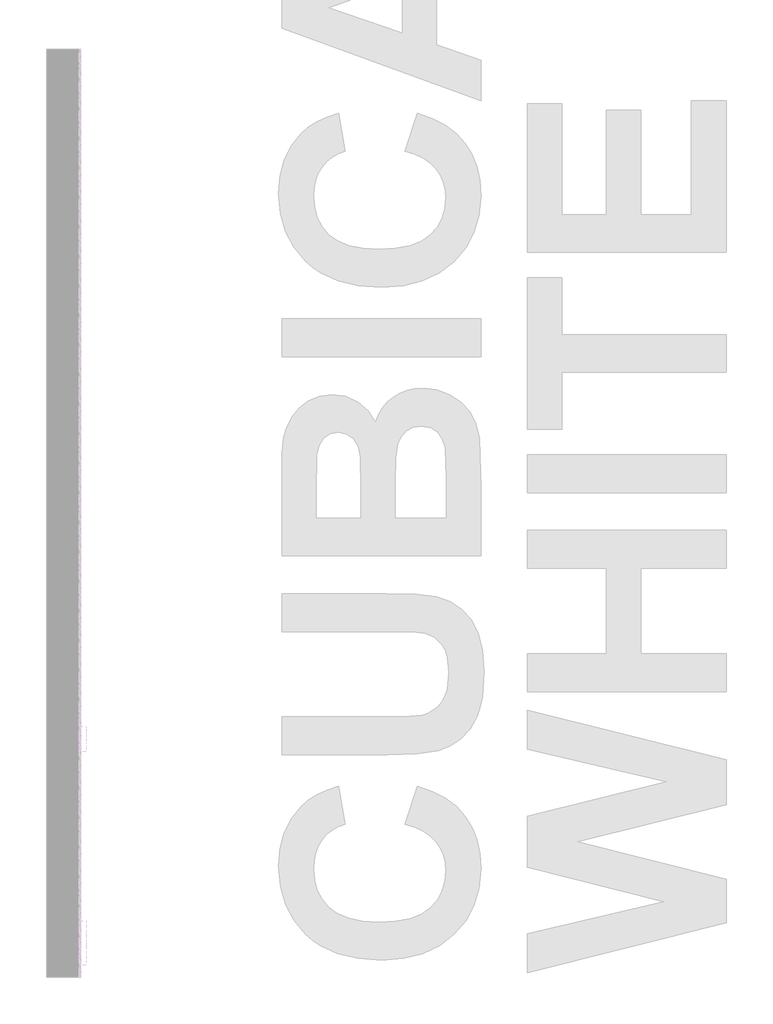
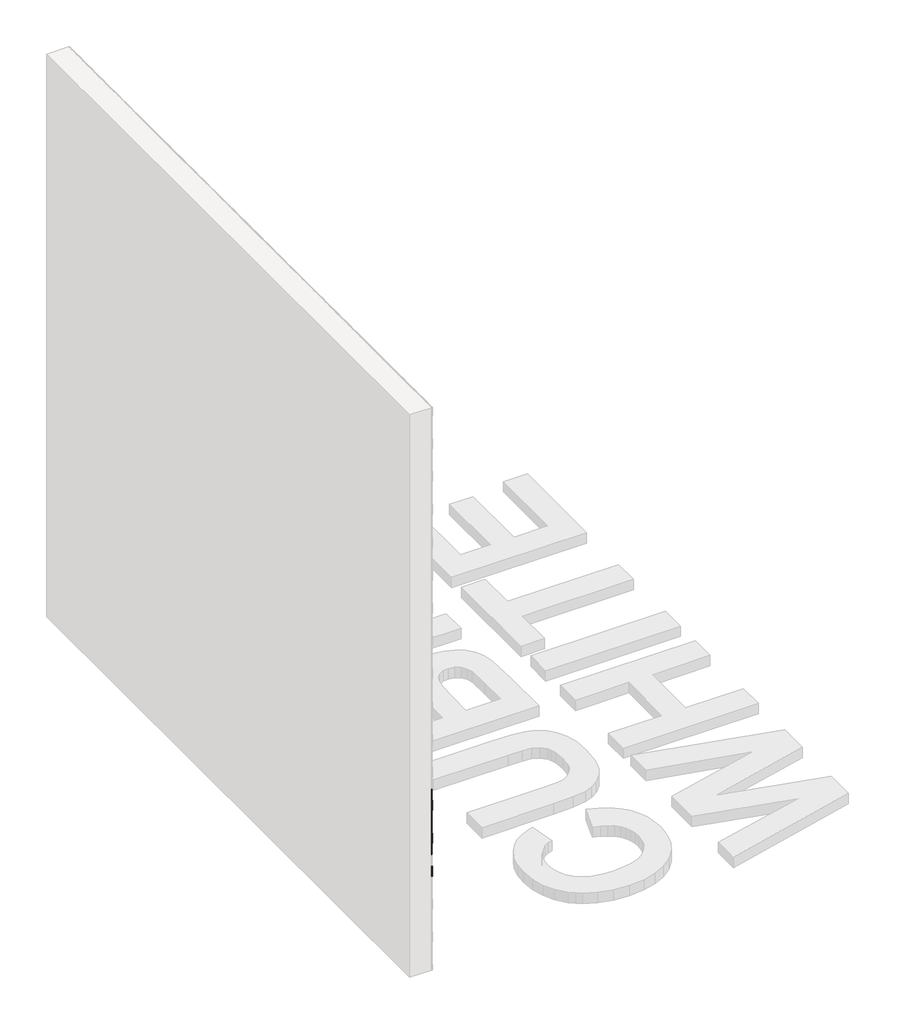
# One storey, part 99 of 121: 145 proxies.
"""IFC4 building model written with IfcOpenShell, lengths in millimetres."""

from ifc_helpers import new_model, si_unit, origin, place, context, project, spatial, transform, mapped, element, save
from components import generic_models_b2b2c5c1, generic_models_9bf73f6f, generic_models_5d175859, generic_models_45888c4d

model = new_model("IFC4")

# Units and contexts
model_context = context("Model", 3, world=origin())
ifc_project = project(units=[si_unit("LENGTHUNIT", "METRE", prefix="MILLI")], contexts=[model_context])

# Site, building, storey
site = spatial("IfcSite", under=ifc_project)
building = spatial("IfcBuilding", under=site)
storey = spatial("IfcBuildingStorey", under=building, Name="PORTOBELLO - SHOWROOM", Elevation=0.0)

# Proxies
placement = place(None, origin())
generic_models_shape = generic_models_b2b2c5c1(model_context)
element("IfcBuildingElementProxy", 1, Name="PBSHOP - CUBICA WHITE 4,8X8,3 : CUBICA WHITE - POSIÇÃO 01", ObjectType="PBSHOP - CUBICA WHITE 4,8X8,3 : CUBICA WHITE - POSIÇÃO 01", at=placement, inside=storey, context=model_context, shape_type="MappedRepresentation", body=[
    mapped(generic_models_shape, transform((150369.5341846, 19287.3870148, 513.0299971), x_axis=(0.0, 1.0, 0.0), y_axis=(0.0, 0.0, 1.0), z_axis=(1.0, 0.0, 0.0))),
])
element("IfcBuildingElementProxy", 2, Name="PBSHOP - CUBICA WHITE 4,8X8,3 : CUBICA WHITE - POSIÇÃO 01", ObjectType="PBSHOP - CUBICA WHITE 4,8X8,3 : CUBICA WHITE - POSIÇÃO 01", at=placement, inside=storey, context=model_context, shape_type="MappedRepresentation", body=[
    mapped(generic_models_shape, transform((150369.5341846, 19378.2262841, 513.0299971), x_axis=(0.0, 1.0, 0.0), y_axis=(0.0, 0.0, 1.0), z_axis=(1.0, 0.0, 0.0))),
])
element("IfcBuildingElementProxy", 3, Name="PBSHOP - CUBICA WHITE 4,8X8,3 : CUBICA WHITE - POSIÇÃO 01", ObjectType="PBSHOP - CUBICA WHITE 4,8X8,3 : CUBICA WHITE - POSIÇÃO 01", at=placement, inside=storey, context=model_context, shape_type="MappedRepresentation", body=[
    mapped(generic_models_shape, transform((150369.5341846, 19469.0655533, 513.0299971), x_axis=(0.0, 1.0, 0.0), y_axis=(0.0, 0.0, 1.0), z_axis=(1.0, 0.0, 0.0))),
])
element("IfcBuildingElementProxy", 4, Name="PBSHOP - CUBICA WHITE 4,8X8,3 : CUBICA WHITE - POSIÇÃO 01", ObjectType="PBSHOP - CUBICA WHITE 4,8X8,3 : CUBICA WHITE - POSIÇÃO 01", at=placement, inside=storey, context=model_context, shape_type="MappedRepresentation", body=[
    mapped(generic_models_shape, transform((150369.5341846, 19559.9048225, 513.0299971), x_axis=(0.0, 1.0, 0.0), y_axis=(0.0, 0.0, 1.0), z_axis=(1.0, 0.0, 0.0))),
])
element("IfcBuildingElementProxy", 5, Name="PBSHOP - CUBICA WHITE 4,8X8,3 : CUBICA WHITE - POSIÇÃO 01", ObjectType="PBSHOP - CUBICA WHITE 4,8X8,3 : CUBICA WHITE - POSIÇÃO 01", at=placement, inside=storey, context=model_context, shape_type="MappedRepresentation", body=[
    mapped(generic_models_shape, transform((150369.5341846, 19650.7440918, 513.0299971), x_axis=(0.0, 1.0, 0.0), y_axis=(0.0, 0.0, 1.0), z_axis=(1.0, 0.0, 0.0))),
])
element("IfcBuildingElementProxy", 6, Name="PBSHOP - CUBICA WHITE 4,8X8,3 : CUBICA WHITE - POSIÇÃO 01", ObjectType="PBSHOP - CUBICA WHITE 4,8X8,3 : CUBICA WHITE - POSIÇÃO 01", at=placement, inside=storey, context=model_context, shape_type="MappedRepresentation", body=[
    mapped(generic_models_shape, transform((150369.5341846, 19741.583361, 513.0299971), x_axis=(0.0, 1.0, 0.0), y_axis=(0.0, 0.0, 1.0), z_axis=(1.0, 0.0, 0.0))),
])
element("IfcBuildingElementProxy", 7, Name="PBSHOP - CUBICA WHITE 4,8X8,3 : CUBICA WHITE - POSIÇÃO 01", ObjectType="PBSHOP - CUBICA WHITE 4,8X8,3 : CUBICA WHITE - POSIÇÃO 01", at=placement, inside=storey, context=model_context, shape_type="MappedRepresentation", body=[
    mapped(generic_models_shape, transform((150369.5341846, 19832.4226303, 513.0299971), x_axis=(0.0, 1.0, 0.0), y_axis=(0.0, 0.0, 1.0), z_axis=(1.0, 0.0, 0.0))),
])
element("IfcBuildingElementProxy", 8, Name="PBSHOP - CUBICA WHITE 4,8X8,3 : CUBICA WHITE - POSIÇÃO 01", ObjectType="PBSHOP - CUBICA WHITE 4,8X8,3 : CUBICA WHITE - POSIÇÃO 01", at=placement, inside=storey, context=model_context, shape_type="MappedRepresentation", body=[
    mapped(generic_models_shape, transform((150369.5341846, 19923.2618995, 513.0299971), x_axis=(0.0, 1.0, 0.0), y_axis=(0.0, 0.0, 1.0), z_axis=(1.0, 0.0, 0.0))),
])
element("IfcBuildingElementProxy", 9, Name="PBSHOP - CUBICA WHITE 4,8X8,3 : CUBICA WHITE - POSIÇÃO 01", ObjectType="PBSHOP - CUBICA WHITE 4,8X8,3 : CUBICA WHITE - POSIÇÃO 01", at=placement, inside=storey, context=model_context, shape_type="MappedRepresentation", body=[
    mapped(generic_models_shape, transform((150369.5341846, 19241.9673802, 591.9646354), x_axis=(0.0, 1.0, 0.0), y_axis=(0.0, 0.0, 1.0), z_axis=(1.0, 0.0, 0.0))),
])
element("IfcBuildingElementProxy", 10, Name="PBSHOP - CUBICA WHITE 4,8X8,3 : CUBICA WHITE - POSIÇÃO 01", ObjectType="PBSHOP - CUBICA WHITE 4,8X8,3 : CUBICA WHITE - POSIÇÃO 01", at=placement, inside=storey, context=model_context, shape_type="MappedRepresentation", body=[
    mapped(generic_models_shape, transform((150369.5341846, 19332.8066494, 591.9646354), x_axis=(0.0, 1.0, 0.0), y_axis=(0.0, 0.0, 1.0), z_axis=(1.0, 0.0, 0.0))),
])
element("IfcBuildingElementProxy", 11, Name="PBSHOP - CUBICA WHITE 4,8X8,3 : CUBICA WHITE - POSIÇÃO 01", ObjectType="PBSHOP - CUBICA WHITE 4,8X8,3 : CUBICA WHITE - POSIÇÃO 01", at=placement, inside=storey, context=model_context, shape_type="MappedRepresentation", body=[
    mapped(generic_models_shape, transform((150369.5341846, 19423.6459187, 591.9646354), x_axis=(0.0, 1.0, 0.0), y_axis=(0.0, 0.0, 1.0), z_axis=(1.0, 0.0, 0.0))),
])
element("IfcBuildingElementProxy", 12, Name="PBSHOP - CUBICA WHITE 4,8X8,3 : CUBICA WHITE - POSIÇÃO 01", ObjectType="PBSHOP - CUBICA WHITE 4,8X8,3 : CUBICA WHITE - POSIÇÃO 01", at=placement, inside=storey, context=model_context, shape_type="MappedRepresentation", body=[
    mapped(generic_models_shape, transform((150369.5341846, 19514.4851879, 591.9646354), x_axis=(0.0, 1.0, 0.0), y_axis=(0.0, 0.0, 1.0), z_axis=(1.0, 0.0, 0.0))),
])
element("IfcBuildingElementProxy", 13, Name="PBSHOP - CUBICA WHITE 4,8X8,3 : CUBICA WHITE - POSIÇÃO 01", ObjectType="PBSHOP - CUBICA WHITE 4,8X8,3 : CUBICA WHITE - POSIÇÃO 01", at=placement, inside=storey, context=model_context, shape_type="MappedRepresentation", body=[
    mapped(generic_models_shape, transform((150369.5341846, 19605.3244572, 591.9646354), x_axis=(0.0, 1.0, 0.0), y_axis=(0.0, 0.0, 1.0), z_axis=(1.0, 0.0, 0.0))),
])
element("IfcBuildingElementProxy", 14, Name="PBSHOP - CUBICA WHITE 4,8X8,3 : CUBICA WHITE - POSIÇÃO 01", ObjectType="PBSHOP - CUBICA WHITE 4,8X8,3 : CUBICA WHITE - POSIÇÃO 01", at=placement, inside=storey, context=model_context, shape_type="MappedRepresentation", body=[
    mapped(generic_models_shape, transform((150369.5341846, 19696.1637264, 591.9646354), x_axis=(0.0, 1.0, 0.0), y_axis=(0.0, 0.0, 1.0), z_axis=(1.0, 0.0, 0.0))),
])
element("IfcBuildingElementProxy", 15, Name="PBSHOP - CUBICA WHITE 4,8X8,3 : CUBICA WHITE - POSIÇÃO 01", ObjectType="PBSHOP - CUBICA WHITE 4,8X8,3 : CUBICA WHITE - POSIÇÃO 01", at=placement, inside=storey, context=model_context, shape_type="MappedRepresentation", body=[
    mapped(generic_models_shape, transform((150369.5341846, 19787.0029957, 591.9646354), x_axis=(0.0, 1.0, 0.0), y_axis=(0.0, 0.0, 1.0), z_axis=(1.0, 0.0, 0.0))),
])
element("IfcBuildingElementProxy", 16, Name="PBSHOP - CUBICA WHITE 4,8X8,3 : CUBICA WHITE - POSIÇÃO 01", ObjectType="PBSHOP - CUBICA WHITE 4,8X8,3 : CUBICA WHITE - POSIÇÃO 01", at=placement, inside=storey, context=model_context, shape_type="MappedRepresentation", body=[
    mapped(generic_models_shape, transform((150369.5341846, 19877.8422649, 591.9646354), x_axis=(0.0, 1.0, 0.0), y_axis=(0.0, 0.0, 1.0), z_axis=(1.0, 0.0, 0.0))),
])
element("IfcBuildingElementProxy", 17, Name="PBSHOP - CUBICA WHITE 4,8X8,3 : CUBICA WHITE - POSIÇÃO 01", ObjectType="PBSHOP - CUBICA WHITE 4,8X8,3 : CUBICA WHITE - POSIÇÃO 01", at=placement, inside=storey, context=model_context, shape_type="MappedRepresentation", body=[
    mapped(generic_models_shape, transform((150369.5341846, 19968.6815341, 591.9646354), x_axis=(0.0, 1.0, 0.0), y_axis=(0.0, 0.0, 1.0), z_axis=(1.0, 0.0, 0.0))),
])
element("IfcBuildingElementProxy", 18, Name="PBSHOP - CUBICA WHITE 4,8X8,3 : CUBICA WHITE - POSIÇÃO 01", ObjectType="PBSHOP - CUBICA WHITE 4,8X8,3 : CUBICA WHITE - POSIÇÃO 01", at=placement, inside=storey, context=model_context, shape_type="MappedRepresentation", body=[
    mapped(generic_models_shape, transform((150369.5341846, 19196.5477456, 670.8992738), x_axis=(0.0, 1.0, 0.0), y_axis=(0.0, 0.0, 1.0), z_axis=(1.0, 0.0, 0.0))),
])
element("IfcBuildingElementProxy", 19, Name="PBSHOP - CUBICA WHITE 4,8X8,3 : CUBICA WHITE - POSIÇÃO 01", ObjectType="PBSHOP - CUBICA WHITE 4,8X8,3 : CUBICA WHITE - POSIÇÃO 01", at=placement, inside=storey, context=model_context, shape_type="MappedRepresentation", body=[
    mapped(generic_models_shape, transform((150369.5341846, 19287.3870148, 670.8992738), x_axis=(0.0, 1.0, 0.0), y_axis=(0.0, 0.0, 1.0), z_axis=(1.0, 0.0, 0.0))),
])
element("IfcBuildingElementProxy", 20, Name="PBSHOP - CUBICA WHITE 4,8X8,3 : CUBICA WHITE - POSIÇÃO 01", ObjectType="PBSHOP - CUBICA WHITE 4,8X8,3 : CUBICA WHITE - POSIÇÃO 01", at=placement, inside=storey, context=model_context, shape_type="MappedRepresentation", body=[
    mapped(generic_models_shape, transform((150369.5341846, 19378.2262841, 670.8992738), x_axis=(0.0, 1.0, 0.0), y_axis=(0.0, 0.0, 1.0), z_axis=(1.0, 0.0, 0.0))),
])
element("IfcBuildingElementProxy", 21, Name="PBSHOP - CUBICA WHITE 4,8X8,3 : CUBICA WHITE - POSIÇÃO 01", ObjectType="PBSHOP - CUBICA WHITE 4,8X8,3 : CUBICA WHITE - POSIÇÃO 01", at=placement, inside=storey, context=model_context, shape_type="MappedRepresentation", body=[
    mapped(generic_models_shape, transform((150369.5341846, 19469.0655533, 670.8992738), x_axis=(0.0, 1.0, 0.0), y_axis=(0.0, 0.0, 1.0), z_axis=(1.0, 0.0, 0.0))),
])
element("IfcBuildingElementProxy", 22, Name="PBSHOP - CUBICA WHITE 4,8X8,3 : CUBICA WHITE - POSIÇÃO 01", ObjectType="PBSHOP - CUBICA WHITE 4,8X8,3 : CUBICA WHITE - POSIÇÃO 01", at=placement, inside=storey, context=model_context, shape_type="MappedRepresentation", body=[
    mapped(generic_models_shape, transform((150369.5341846, 19559.9048225, 670.8992738), x_axis=(0.0, 1.0, 0.0), y_axis=(0.0, 0.0, 1.0), z_axis=(1.0, 0.0, 0.0))),
])
element("IfcBuildingElementProxy", 23, Name="PBSHOP - CUBICA WHITE 4,8X8,3 : CUBICA WHITE - POSIÇÃO 01", ObjectType="PBSHOP - CUBICA WHITE 4,8X8,3 : CUBICA WHITE - POSIÇÃO 01", at=placement, inside=storey, context=model_context, shape_type="MappedRepresentation", body=[
    mapped(generic_models_shape, transform((150369.5341846, 19650.7440918, 670.8992738), x_axis=(0.0, 1.0, 0.0), y_axis=(0.0, 0.0, 1.0), z_axis=(1.0, 0.0, 0.0))),
])
element("IfcBuildingElementProxy", 24, Name="PBSHOP - CUBICA WHITE 4,8X8,3 : CUBICA WHITE - POSIÇÃO 01", ObjectType="PBSHOP - CUBICA WHITE 4,8X8,3 : CUBICA WHITE - POSIÇÃO 01", at=placement, inside=storey, context=model_context, shape_type="MappedRepresentation", body=[
    mapped(generic_models_shape, transform((150369.5341846, 19741.583361, 670.8992738), x_axis=(0.0, 1.0, 0.0), y_axis=(0.0, 0.0, 1.0), z_axis=(1.0, 0.0, 0.0))),
])
element("IfcBuildingElementProxy", 25, Name="PBSHOP - CUBICA WHITE 4,8X8,3 : CUBICA WHITE - POSIÇÃO 01", ObjectType="PBSHOP - CUBICA WHITE 4,8X8,3 : CUBICA WHITE - POSIÇÃO 01", at=placement, inside=storey, context=model_context, shape_type="MappedRepresentation", body=[
    mapped(generic_models_shape, transform((150369.5341846, 19832.4226303, 670.8992738), x_axis=(0.0, 1.0, 0.0), y_axis=(0.0, 0.0, 1.0), z_axis=(1.0, 0.0, 0.0))),
])
element("IfcBuildingElementProxy", 26, Name="PBSHOP - CUBICA WHITE 4,8X8,3 : CUBICA WHITE - POSIÇÃO 01", ObjectType="PBSHOP - CUBICA WHITE 4,8X8,3 : CUBICA WHITE - POSIÇÃO 01", at=placement, inside=storey, context=model_context, shape_type="MappedRepresentation", body=[
    mapped(generic_models_shape, transform((150369.5341846, 19923.2618995, 670.8992738), x_axis=(0.0, 1.0, 0.0), y_axis=(0.0, 0.0, 1.0), z_axis=(1.0, 0.0, 0.0))),
])
element("IfcBuildingElementProxy", 27, Name="PBSHOP - CUBICA WHITE 4,8X8,3 : CUBICA WHITE - POSIÇÃO 01", ObjectType="PBSHOP - CUBICA WHITE 4,8X8,3 : CUBICA WHITE - POSIÇÃO 01", at=placement, inside=storey, context=model_context, shape_type="MappedRepresentation", body=[
    mapped(generic_models_shape, transform((150369.5341846, 19241.9673802, 749.8339122), x_axis=(0.0, 1.0, 0.0), y_axis=(0.0, 0.0, 1.0), z_axis=(1.0, 0.0, 0.0))),
])
element("IfcBuildingElementProxy", 28, Name="PBSHOP - CUBICA WHITE 4,8X8,3 : CUBICA WHITE - POSIÇÃO 01", ObjectType="PBSHOP - CUBICA WHITE 4,8X8,3 : CUBICA WHITE - POSIÇÃO 01", at=placement, inside=storey, context=model_context, shape_type="MappedRepresentation", body=[
    mapped(generic_models_shape, transform((150369.5341846, 19332.8066494, 749.8339122), x_axis=(0.0, 1.0, 0.0), y_axis=(0.0, 0.0, 1.0), z_axis=(1.0, 0.0, 0.0))),
])
element("IfcBuildingElementProxy", 29, Name="PBSHOP - CUBICA WHITE 4,8X8,3 : CUBICA WHITE - POSIÇÃO 01", ObjectType="PBSHOP - CUBICA WHITE 4,8X8,3 : CUBICA WHITE - POSIÇÃO 01", at=placement, inside=storey, context=model_context, shape_type="MappedRepresentation", body=[
    mapped(generic_models_shape, transform((150369.5341846, 19423.6459187, 749.8339122), x_axis=(0.0, 1.0, 0.0), y_axis=(0.0, 0.0, 1.0), z_axis=(1.0, 0.0, 0.0))),
])
element("IfcBuildingElementProxy", 30, Name="PBSHOP - CUBICA WHITE 4,8X8,3 : CUBICA WHITE - POSIÇÃO 01", ObjectType="PBSHOP - CUBICA WHITE 4,8X8,3 : CUBICA WHITE - POSIÇÃO 01", at=placement, inside=storey, context=model_context, shape_type="MappedRepresentation", body=[
    mapped(generic_models_shape, transform((150369.5341846, 19514.4851879, 749.8339122), x_axis=(0.0, 1.0, 0.0), y_axis=(0.0, 0.0, 1.0), z_axis=(1.0, 0.0, 0.0))),
])
element("IfcBuildingElementProxy", 31, Name="PBSHOP - CUBICA WHITE 4,8X8,3 : CUBICA WHITE - POSIÇÃO 01", ObjectType="PBSHOP - CUBICA WHITE 4,8X8,3 : CUBICA WHITE - POSIÇÃO 01", at=placement, inside=storey, context=model_context, shape_type="MappedRepresentation", body=[
    mapped(generic_models_shape, transform((150369.5341846, 19605.3244572, 749.8339122), x_axis=(0.0, 1.0, 0.0), y_axis=(0.0, 0.0, 1.0), z_axis=(1.0, 0.0, 0.0))),
])
element("IfcBuildingElementProxy", 32, Name="PBSHOP - CUBICA WHITE 4,8X8,3 : CUBICA WHITE - POSIÇÃO 01", ObjectType="PBSHOP - CUBICA WHITE 4,8X8,3 : CUBICA WHITE - POSIÇÃO 01", at=placement, inside=storey, context=model_context, shape_type="MappedRepresentation", body=[
    mapped(generic_models_shape, transform((150369.5341846, 19696.1637264, 749.8339122), x_axis=(0.0, 1.0, 0.0), y_axis=(0.0, 0.0, 1.0), z_axis=(1.0, 0.0, 0.0))),
])
element("IfcBuildingElementProxy", 33, Name="PBSHOP - CUBICA WHITE 4,8X8,3 : CUBICA WHITE - POSIÇÃO 01", ObjectType="PBSHOP - CUBICA WHITE 4,8X8,3 : CUBICA WHITE - POSIÇÃO 01", at=placement, inside=storey, context=model_context, shape_type="MappedRepresentation", body=[
    mapped(generic_models_shape, transform((150369.5341846, 19787.0029957, 749.8339122), x_axis=(0.0, 1.0, 0.0), y_axis=(0.0, 0.0, 1.0), z_axis=(1.0, 0.0, 0.0))),
])
element("IfcBuildingElementProxy", 34, Name="PBSHOP - CUBICA WHITE 4,8X8,3 : CUBICA WHITE - POSIÇÃO 01", ObjectType="PBSHOP - CUBICA WHITE 4,8X8,3 : CUBICA WHITE - POSIÇÃO 01", at=placement, inside=storey, context=model_context, shape_type="MappedRepresentation", body=[
    mapped(generic_models_shape, transform((150369.5341846, 19877.8422649, 749.8339122), x_axis=(0.0, 1.0, 0.0), y_axis=(0.0, 0.0, 1.0), z_axis=(1.0, 0.0, 0.0))),
])
element("IfcBuildingElementProxy", 35, Name="PBSHOP - CUBICA WHITE 4,8X8,3 : CUBICA WHITE - POSIÇÃO 01", ObjectType="PBSHOP - CUBICA WHITE 4,8X8,3 : CUBICA WHITE - POSIÇÃO 01", at=placement, inside=storey, context=model_context, shape_type="MappedRepresentation", body=[
    mapped(generic_models_shape, transform((150369.5341846, 19968.6815341, 749.8339122), x_axis=(0.0, 1.0, 0.0), y_axis=(0.0, 0.0, 1.0), z_axis=(1.0, 0.0, 0.0))),
])
element("IfcBuildingElementProxy", 36, Name="PBSHOP - CUBICA WHITE 4,8X8,3 : CUBICA WHITE - POSIÇÃO 01", ObjectType="PBSHOP - CUBICA WHITE 4,8X8,3 : CUBICA WHITE - POSIÇÃO 01", at=placement, inside=storey, context=model_context, shape_type="MappedRepresentation", body=[
    mapped(generic_models_shape, transform((150369.5341846, 19196.5477456, 828.7685506), x_axis=(0.0, 1.0, 0.0), y_axis=(0.0, 0.0, 1.0), z_axis=(1.0, 0.0, 0.0))),
])
element("IfcBuildingElementProxy", 37, Name="PBSHOP - CUBICA WHITE 4,8X8,3 : CUBICA WHITE - POSIÇÃO 01", ObjectType="PBSHOP - CUBICA WHITE 4,8X8,3 : CUBICA WHITE - POSIÇÃO 01", at=placement, inside=storey, context=model_context, shape_type="MappedRepresentation", body=[
    mapped(generic_models_shape, transform((150369.5341846, 19287.3870148, 828.7685506), x_axis=(0.0, 1.0, 0.0), y_axis=(0.0, 0.0, 1.0), z_axis=(1.0, 0.0, 0.0))),
])
element("IfcBuildingElementProxy", 38, Name="PBSHOP - CUBICA WHITE 4,8X8,3 : CUBICA WHITE - POSIÇÃO 01", ObjectType="PBSHOP - CUBICA WHITE 4,8X8,3 : CUBICA WHITE - POSIÇÃO 01", at=placement, inside=storey, context=model_context, shape_type="MappedRepresentation", body=[
    mapped(generic_models_shape, transform((150369.5341846, 19378.2262841, 828.7685506), x_axis=(0.0, 1.0, 0.0), y_axis=(0.0, 0.0, 1.0), z_axis=(1.0, 0.0, 0.0))),
])
element("IfcBuildingElementProxy", 39, Name="PBSHOP - CUBICA WHITE 4,8X8,3 : CUBICA WHITE - POSIÇÃO 01", ObjectType="PBSHOP - CUBICA WHITE 4,8X8,3 : CUBICA WHITE - POSIÇÃO 01", at=placement, inside=storey, context=model_context, shape_type="MappedRepresentation", body=[
    mapped(generic_models_shape, transform((150369.5341846, 19469.0655533, 828.7685506), x_axis=(0.0, 1.0, 0.0), y_axis=(0.0, 0.0, 1.0), z_axis=(1.0, 0.0, 0.0))),
])
element("IfcBuildingElementProxy", 40, Name="PBSHOP - CUBICA WHITE 4,8X8,3 : CUBICA WHITE - POSIÇÃO 01", ObjectType="PBSHOP - CUBICA WHITE 4,8X8,3 : CUBICA WHITE - POSIÇÃO 01", at=placement, inside=storey, context=model_context, shape_type="MappedRepresentation", body=[
    mapped(generic_models_shape, transform((150369.5341846, 19559.9048225, 828.7685506), x_axis=(0.0, 1.0, 0.0), y_axis=(0.0, 0.0, 1.0), z_axis=(1.0, 0.0, 0.0))),
])
element("IfcBuildingElementProxy", 41, Name="PBSHOP - CUBICA WHITE 4,8X8,3 : CUBICA WHITE - POSIÇÃO 01", ObjectType="PBSHOP - CUBICA WHITE 4,8X8,3 : CUBICA WHITE - POSIÇÃO 01", at=placement, inside=storey, context=model_context, shape_type="MappedRepresentation", body=[
    mapped(generic_models_shape, transform((150369.5341846, 19650.7440918, 828.7685506), x_axis=(0.0, 1.0, 0.0), y_axis=(0.0, 0.0, 1.0), z_axis=(1.0, 0.0, 0.0))),
])
element("IfcBuildingElementProxy", 42, Name="PBSHOP - CUBICA WHITE 4,8X8,3 : CUBICA WHITE - POSIÇÃO 01", ObjectType="PBSHOP - CUBICA WHITE 4,8X8,3 : CUBICA WHITE - POSIÇÃO 01", at=placement, inside=storey, context=model_context, shape_type="MappedRepresentation", body=[
    mapped(generic_models_shape, transform((150369.5341846, 19741.583361, 828.7685506), x_axis=(0.0, 1.0, 0.0), y_axis=(0.0, 0.0, 1.0), z_axis=(1.0, 0.0, 0.0))),
])
element("IfcBuildingElementProxy", 43, Name="PBSHOP - CUBICA WHITE 4,8X8,3 : CUBICA WHITE - POSIÇÃO 01", ObjectType="PBSHOP - CUBICA WHITE 4,8X8,3 : CUBICA WHITE - POSIÇÃO 01", at=placement, inside=storey, context=model_context, shape_type="MappedRepresentation", body=[
    mapped(generic_models_shape, transform((150369.5341846, 19832.4226303, 828.7685506), x_axis=(0.0, 1.0, 0.0), y_axis=(0.0, 0.0, 1.0), z_axis=(1.0, 0.0, 0.0))),
])
element("IfcBuildingElementProxy", 44, Name="PBSHOP - CUBICA WHITE 4,8X8,3 : CUBICA WHITE - POSIÇÃO 01", ObjectType="PBSHOP - CUBICA WHITE 4,8X8,3 : CUBICA WHITE - POSIÇÃO 01", at=placement, inside=storey, context=model_context, shape_type="MappedRepresentation", body=[
    mapped(generic_models_shape, transform((150369.5341846, 19923.2618995, 828.7685506), x_axis=(0.0, 1.0, 0.0), y_axis=(0.0, 0.0, 1.0), z_axis=(1.0, 0.0, 0.0))),
])
element("IfcBuildingElementProxy", 45, Name="PBSHOP - CUBICA WHITE 4,8X8,3 : CUBICA WHITE - POSIÇÃO 01", ObjectType="PBSHOP - CUBICA WHITE 4,8X8,3 : CUBICA WHITE - POSIÇÃO 01", at=placement, inside=storey, context=model_context, shape_type="MappedRepresentation", body=[
    mapped(generic_models_shape, transform((150369.5341846, 19241.9673802, 907.7031889), x_axis=(0.0, 1.0, 0.0), y_axis=(0.0, 0.0, 1.0), z_axis=(1.0, 0.0, 0.0))),
])
element("IfcBuildingElementProxy", 46, Name="PBSHOP - CUBICA WHITE 4,8X8,3 : CUBICA WHITE - POSIÇÃO 01", ObjectType="PBSHOP - CUBICA WHITE 4,8X8,3 : CUBICA WHITE - POSIÇÃO 01", at=placement, inside=storey, context=model_context, shape_type="MappedRepresentation", body=[
    mapped(generic_models_shape, transform((150369.5341846, 19332.8066494, 907.7031889), x_axis=(0.0, 1.0, 0.0), y_axis=(0.0, 0.0, 1.0), z_axis=(1.0, 0.0, 0.0))),
])
element("IfcBuildingElementProxy", 47, Name="PBSHOP - CUBICA WHITE 4,8X8,3 : CUBICA WHITE - POSIÇÃO 01", ObjectType="PBSHOP - CUBICA WHITE 4,8X8,3 : CUBICA WHITE - POSIÇÃO 01", at=placement, inside=storey, context=model_context, shape_type="MappedRepresentation", body=[
    mapped(generic_models_shape, transform((150369.5341846, 19423.6459187, 907.7031889), x_axis=(0.0, 1.0, 0.0), y_axis=(0.0, 0.0, 1.0), z_axis=(1.0, 0.0, 0.0))),
])
element("IfcBuildingElementProxy", 48, Name="PBSHOP - CUBICA WHITE 4,8X8,3 : CUBICA WHITE - POSIÇÃO 01", ObjectType="PBSHOP - CUBICA WHITE 4,8X8,3 : CUBICA WHITE - POSIÇÃO 01", at=placement, inside=storey, context=model_context, shape_type="MappedRepresentation", body=[
    mapped(generic_models_shape, transform((150369.5341846, 19514.4851879, 907.7031889), x_axis=(0.0, 1.0, 0.0), y_axis=(0.0, 0.0, 1.0), z_axis=(1.0, 0.0, 0.0))),
])
element("IfcBuildingElementProxy", 49, Name="PBSHOP - CUBICA WHITE 4,8X8,3 : CUBICA WHITE - POSIÇÃO 01", ObjectType="PBSHOP - CUBICA WHITE 4,8X8,3 : CUBICA WHITE - POSIÇÃO 01", at=placement, inside=storey, context=model_context, shape_type="MappedRepresentation", body=[
    mapped(generic_models_shape, transform((150369.5341846, 19605.3244572, 907.7031889), x_axis=(0.0, 1.0, 0.0), y_axis=(0.0, 0.0, 1.0), z_axis=(1.0, 0.0, 0.0))),
])
generic_models_2_shape = generic_models_9bf73f6f(model_context)
element("IfcBuildingElementProxy", 50, Name="PBSHOP - CUBICA WHITE 4,8X8,3 : CUBICA WHITE - POSIÇÃO 03", ObjectType="PBSHOP - CUBICA WHITE 4,8X8,3 : CUBICA WHITE - POSIÇÃO 03", at=placement, inside=storey, context=model_context, shape_type="MappedRepresentation", body=[
    mapped(generic_models_2_shape, transform((150369.5341846, 19264.6793567, 473.5214674), x_axis=(0.0, 1.0, 0.0), y_axis=(0.0, 0.0, 1.0), z_axis=(1.0, 0.0, 0.0))),
])
element("IfcBuildingElementProxy", 51, Name="PBSHOP - CUBICA WHITE 4,8X8,3 : CUBICA WHITE - POSIÇÃO 03", ObjectType="PBSHOP - CUBICA WHITE 4,8X8,3 : CUBICA WHITE - POSIÇÃO 03", at=placement, inside=storey, context=model_context, shape_type="MappedRepresentation", body=[
    mapped(generic_models_2_shape, transform((150369.5341846, 19355.5186259, 473.5214674), x_axis=(0.0, 1.0, 0.0), y_axis=(0.0, 0.0, 1.0), z_axis=(1.0, 0.0, 0.0))),
])
element("IfcBuildingElementProxy", 52, Name="PBSHOP - CUBICA WHITE 4,8X8,3 : CUBICA WHITE - POSIÇÃO 03", ObjectType="PBSHOP - CUBICA WHITE 4,8X8,3 : CUBICA WHITE - POSIÇÃO 03", at=placement, inside=storey, context=model_context, shape_type="MappedRepresentation", body=[
    mapped(generic_models_2_shape, transform((150369.5341846, 19446.3578952, 473.5214674), x_axis=(0.0, 1.0, 0.0), y_axis=(0.0, 0.0, 1.0), z_axis=(1.0, 0.0, 0.0))),
])
element("IfcBuildingElementProxy", 53, Name="PBSHOP - CUBICA WHITE 4,8X8,3 : CUBICA WHITE - POSIÇÃO 03", ObjectType="PBSHOP - CUBICA WHITE 4,8X8,3 : CUBICA WHITE - POSIÇÃO 03", at=placement, inside=storey, context=model_context, shape_type="MappedRepresentation", body=[
    mapped(generic_models_2_shape, transform((150369.5341846, 19537.1971644, 473.5214674), x_axis=(0.0, 1.0, 0.0), y_axis=(0.0, 0.0, 1.0), z_axis=(1.0, 0.0, 0.0))),
])
element("IfcBuildingElementProxy", 54, Name="PBSHOP - CUBICA WHITE 4,8X8,3 : CUBICA WHITE - POSIÇÃO 03", ObjectType="PBSHOP - CUBICA WHITE 4,8X8,3 : CUBICA WHITE - POSIÇÃO 03", at=placement, inside=storey, context=model_context, shape_type="MappedRepresentation", body=[
    mapped(generic_models_2_shape, transform((150369.5341846, 19628.0364336, 473.5214674), x_axis=(0.0, 1.0, 0.0), y_axis=(0.0, 0.0, 1.0), z_axis=(1.0, 0.0, 0.0))),
])
element("IfcBuildingElementProxy", 55, Name="PBSHOP - CUBICA WHITE 4,8X8,3 : CUBICA WHITE - POSIÇÃO 03", ObjectType="PBSHOP - CUBICA WHITE 4,8X8,3 : CUBICA WHITE - POSIÇÃO 03", at=placement, inside=storey, context=model_context, shape_type="MappedRepresentation", body=[
    mapped(generic_models_2_shape, transform((150369.5341846, 19718.8757029, 473.5214674), x_axis=(0.0, 1.0, 0.0), y_axis=(0.0, 0.0, 1.0), z_axis=(1.0, 0.0, 0.0))),
])
element("IfcBuildingElementProxy", 56, Name="PBSHOP - CUBICA WHITE 4,8X8,3 : CUBICA WHITE - POSIÇÃO 03", ObjectType="PBSHOP - CUBICA WHITE 4,8X8,3 : CUBICA WHITE - POSIÇÃO 03", at=placement, inside=storey, context=model_context, shape_type="MappedRepresentation", body=[
    mapped(generic_models_2_shape, transform((150369.5341846, 19809.7149721, 473.5214674), x_axis=(0.0, 1.0, 0.0), y_axis=(0.0, 0.0, 1.0), z_axis=(1.0, 0.0, 0.0))),
])
element("IfcBuildingElementProxy", 57, Name="PBSHOP - CUBICA WHITE 4,8X8,3 : CUBICA WHITE - POSIÇÃO 03", ObjectType="PBSHOP - CUBICA WHITE 4,8X8,3 : CUBICA WHITE - POSIÇÃO 03", at=placement, inside=storey, context=model_context, shape_type="MappedRepresentation", body=[
    mapped(generic_models_2_shape, transform((150369.5341846, 19900.5542414, 473.5214674), x_axis=(0.0, 1.0, 0.0), y_axis=(0.0, 0.0, 1.0), z_axis=(1.0, 0.0, 0.0))),
])
element("IfcBuildingElementProxy", 58, Name="PBSHOP - CUBICA WHITE 4,8X8,3 : CUBICA WHITE - POSIÇÃO 03", ObjectType="PBSHOP - CUBICA WHITE 4,8X8,3 : CUBICA WHITE - POSIÇÃO 03", at=placement, inside=storey, context=model_context, shape_type="MappedRepresentation", body=[
    mapped(generic_models_2_shape, transform((150369.5341846, 19991.3935106, 473.5214674), x_axis=(0.0, 1.0, 0.0), y_axis=(0.0, 0.0, 1.0), z_axis=(1.0, 0.0, 0.0))),
])
element("IfcBuildingElementProxy", 59, Name="PBSHOP - CUBICA WHITE 4,8X8,3 : CUBICA WHITE - POSIÇÃO 03", ObjectType="PBSHOP - CUBICA WHITE 4,8X8,3 : CUBICA WHITE - POSIÇÃO 03", at=placement, inside=storey, context=model_context, shape_type="MappedRepresentation", body=[
    mapped(generic_models_2_shape, transform((150369.5341846, 19219.259722, 552.4561058), x_axis=(0.0, 1.0, 0.0), y_axis=(0.0, 0.0, 1.0), z_axis=(1.0, 0.0, 0.0))),
])
element("IfcBuildingElementProxy", 60, Name="PBSHOP - CUBICA WHITE 4,8X8,3 : CUBICA WHITE - POSIÇÃO 03", ObjectType="PBSHOP - CUBICA WHITE 4,8X8,3 : CUBICA WHITE - POSIÇÃO 03", at=placement, inside=storey, context=model_context, shape_type="MappedRepresentation", body=[
    mapped(generic_models_2_shape, transform((150369.5341846, 19310.0989913, 552.4561058), x_axis=(0.0, 1.0, 0.0), y_axis=(0.0, 0.0, 1.0), z_axis=(1.0, 0.0, 0.0))),
])
element("IfcBuildingElementProxy", 61, Name="PBSHOP - CUBICA WHITE 4,8X8,3 : CUBICA WHITE - POSIÇÃO 03", ObjectType="PBSHOP - CUBICA WHITE 4,8X8,3 : CUBICA WHITE - POSIÇÃO 03", at=placement, inside=storey, context=model_context, shape_type="MappedRepresentation", body=[
    mapped(generic_models_2_shape, transform((150369.5341846, 19400.9382605, 552.4561058), x_axis=(0.0, 1.0, 0.0), y_axis=(0.0, 0.0, 1.0), z_axis=(1.0, 0.0, 0.0))),
])
element("IfcBuildingElementProxy", 62, Name="PBSHOP - CUBICA WHITE 4,8X8,3 : CUBICA WHITE - POSIÇÃO 03", ObjectType="PBSHOP - CUBICA WHITE 4,8X8,3 : CUBICA WHITE - POSIÇÃO 03", at=placement, inside=storey, context=model_context, shape_type="MappedRepresentation", body=[
    mapped(generic_models_2_shape, transform((150369.5341846, 19491.7775298, 552.4561058), x_axis=(0.0, 1.0, 0.0), y_axis=(0.0, 0.0, 1.0), z_axis=(1.0, 0.0, 0.0))),
])
element("IfcBuildingElementProxy", 63, Name="PBSHOP - CUBICA WHITE 4,8X8,3 : CUBICA WHITE - POSIÇÃO 03", ObjectType="PBSHOP - CUBICA WHITE 4,8X8,3 : CUBICA WHITE - POSIÇÃO 03", at=placement, inside=storey, context=model_context, shape_type="MappedRepresentation", body=[
    mapped(generic_models_2_shape, transform((150369.5341846, 19582.616799, 552.4561058), x_axis=(0.0, 1.0, 0.0), y_axis=(0.0, 0.0, 1.0), z_axis=(1.0, 0.0, 0.0))),
])
element("IfcBuildingElementProxy", 64, Name="PBSHOP - CUBICA WHITE 4,8X8,3 : CUBICA WHITE - POSIÇÃO 03", ObjectType="PBSHOP - CUBICA WHITE 4,8X8,3 : CUBICA WHITE - POSIÇÃO 03", at=placement, inside=storey, context=model_context, shape_type="MappedRepresentation", body=[
    mapped(generic_models_2_shape, transform((150369.5341846, 19673.4560683, 552.4561058), x_axis=(0.0, 1.0, 0.0), y_axis=(0.0, 0.0, 1.0), z_axis=(1.0, 0.0, 0.0))),
])
element("IfcBuildingElementProxy", 65, Name="PBSHOP - CUBICA WHITE 4,8X8,3 : CUBICA WHITE - POSIÇÃO 03", ObjectType="PBSHOP - CUBICA WHITE 4,8X8,3 : CUBICA WHITE - POSIÇÃO 03", at=placement, inside=storey, context=model_context, shape_type="MappedRepresentation", body=[
    mapped(generic_models_2_shape, transform((150369.5341846, 19764.2953375, 552.4561058), x_axis=(0.0, 1.0, 0.0), y_axis=(0.0, 0.0, 1.0), z_axis=(1.0, 0.0, 0.0))),
])
element("IfcBuildingElementProxy", 66, Name="PBSHOP - CUBICA WHITE 4,8X8,3 : CUBICA WHITE - POSIÇÃO 03", ObjectType="PBSHOP - CUBICA WHITE 4,8X8,3 : CUBICA WHITE - POSIÇÃO 03", at=placement, inside=storey, context=model_context, shape_type="MappedRepresentation", body=[
    mapped(generic_models_2_shape, transform((150369.5341846, 19855.1346068, 552.4561058), x_axis=(0.0, 1.0, 0.0), y_axis=(0.0, 0.0, 1.0), z_axis=(1.0, 0.0, 0.0))),
])
element("IfcBuildingElementProxy", 67, Name="PBSHOP - CUBICA WHITE 4,8X8,3 : CUBICA WHITE - POSIÇÃO 03", ObjectType="PBSHOP - CUBICA WHITE 4,8X8,3 : CUBICA WHITE - POSIÇÃO 03", at=placement, inside=storey, context=model_context, shape_type="MappedRepresentation", body=[
    mapped(generic_models_2_shape, transform((150369.5341846, 19945.973876, 552.4561058), x_axis=(0.0, 1.0, 0.0), y_axis=(0.0, 0.0, 1.0), z_axis=(1.0, 0.0, 0.0))),
])
element("IfcBuildingElementProxy", 68, Name="PBSHOP - CUBICA WHITE 4,8X8,3 : CUBICA WHITE - POSIÇÃO 03", ObjectType="PBSHOP - CUBICA WHITE 4,8X8,3 : CUBICA WHITE - POSIÇÃO 03", at=placement, inside=storey, context=model_context, shape_type="MappedRepresentation", body=[
    mapped(generic_models_2_shape, transform((150369.5341846, 19264.6793567, 631.3907442), x_axis=(0.0, 1.0, 0.0), y_axis=(0.0, 0.0, 1.0), z_axis=(1.0, 0.0, 0.0))),
])
element("IfcBuildingElementProxy", 69, Name="PBSHOP - CUBICA WHITE 4,8X8,3 : CUBICA WHITE - POSIÇÃO 03", ObjectType="PBSHOP - CUBICA WHITE 4,8X8,3 : CUBICA WHITE - POSIÇÃO 03", at=placement, inside=storey, context=model_context, shape_type="MappedRepresentation", body=[
    mapped(generic_models_2_shape, transform((150369.5341846, 19355.5186259, 631.3907442), x_axis=(0.0, 1.0, 0.0), y_axis=(0.0, 0.0, 1.0), z_axis=(1.0, 0.0, 0.0))),
])
element("IfcBuildingElementProxy", 70, Name="PBSHOP - CUBICA WHITE 4,8X8,3 : CUBICA WHITE - POSIÇÃO 03", ObjectType="PBSHOP - CUBICA WHITE 4,8X8,3 : CUBICA WHITE - POSIÇÃO 03", at=placement, inside=storey, context=model_context, shape_type="MappedRepresentation", body=[
    mapped(generic_models_2_shape, transform((150369.5341846, 19446.3578952, 631.3907442), x_axis=(0.0, 1.0, 0.0), y_axis=(0.0, 0.0, 1.0), z_axis=(1.0, 0.0, 0.0))),
])
element("IfcBuildingElementProxy", 71, Name="PBSHOP - CUBICA WHITE 4,8X8,3 : CUBICA WHITE - POSIÇÃO 03", ObjectType="PBSHOP - CUBICA WHITE 4,8X8,3 : CUBICA WHITE - POSIÇÃO 03", at=placement, inside=storey, context=model_context, shape_type="MappedRepresentation", body=[
    mapped(generic_models_2_shape, transform((150369.5341846, 19537.1971644, 631.3907442), x_axis=(0.0, 1.0, 0.0), y_axis=(0.0, 0.0, 1.0), z_axis=(1.0, 0.0, 0.0))),
])
element("IfcBuildingElementProxy", 72, Name="PBSHOP - CUBICA WHITE 4,8X8,3 : CUBICA WHITE - POSIÇÃO 03", ObjectType="PBSHOP - CUBICA WHITE 4,8X8,3 : CUBICA WHITE - POSIÇÃO 03", at=placement, inside=storey, context=model_context, shape_type="MappedRepresentation", body=[
    mapped(generic_models_2_shape, transform((150369.5341846, 19628.0364336, 631.3907442), x_axis=(0.0, 1.0, 0.0), y_axis=(0.0, 0.0, 1.0), z_axis=(1.0, 0.0, 0.0))),
])
element("IfcBuildingElementProxy", 73, Name="PBSHOP - CUBICA WHITE 4,8X8,3 : CUBICA WHITE - POSIÇÃO 03", ObjectType="PBSHOP - CUBICA WHITE 4,8X8,3 : CUBICA WHITE - POSIÇÃO 03", at=placement, inside=storey, context=model_context, shape_type="MappedRepresentation", body=[
    mapped(generic_models_2_shape, transform((150369.5341846, 19718.8757029, 631.3907442), x_axis=(0.0, 1.0, 0.0), y_axis=(0.0, 0.0, 1.0), z_axis=(1.0, 0.0, 0.0))),
])
element("IfcBuildingElementProxy", 74, Name="PBSHOP - CUBICA WHITE 4,8X8,3 : CUBICA WHITE - POSIÇÃO 03", ObjectType="PBSHOP - CUBICA WHITE 4,8X8,3 : CUBICA WHITE - POSIÇÃO 03", at=placement, inside=storey, context=model_context, shape_type="MappedRepresentation", body=[
    mapped(generic_models_2_shape, transform((150369.5341846, 19809.7149721, 631.3907442), x_axis=(0.0, 1.0, 0.0), y_axis=(0.0, 0.0, 1.0), z_axis=(1.0, 0.0, 0.0))),
])
element("IfcBuildingElementProxy", 75, Name="PBSHOP - CUBICA WHITE 4,8X8,3 : CUBICA WHITE - POSIÇÃO 03", ObjectType="PBSHOP - CUBICA WHITE 4,8X8,3 : CUBICA WHITE - POSIÇÃO 03", at=placement, inside=storey, context=model_context, shape_type="MappedRepresentation", body=[
    mapped(generic_models_2_shape, transform((150369.5341846, 19900.5542414, 631.3907442), x_axis=(0.0, 1.0, 0.0), y_axis=(0.0, 0.0, 1.0), z_axis=(1.0, 0.0, 0.0))),
])
element("IfcBuildingElementProxy", 76, Name="PBSHOP - CUBICA WHITE 4,8X8,3 : CUBICA WHITE - POSIÇÃO 03", ObjectType="PBSHOP - CUBICA WHITE 4,8X8,3 : CUBICA WHITE - POSIÇÃO 03", at=placement, inside=storey, context=model_context, shape_type="MappedRepresentation", body=[
    mapped(generic_models_2_shape, transform((150369.5341846, 19991.3935106, 631.3907442), x_axis=(0.0, 1.0, 0.0), y_axis=(0.0, 0.0, 1.0), z_axis=(1.0, 0.0, 0.0))),
])
element("IfcBuildingElementProxy", 77, Name="PBSHOP - CUBICA WHITE 4,8X8,3 : CUBICA WHITE - POSIÇÃO 03", ObjectType="PBSHOP - CUBICA WHITE 4,8X8,3 : CUBICA WHITE - POSIÇÃO 03", at=placement, inside=storey, context=model_context, shape_type="MappedRepresentation", body=[
    mapped(generic_models_2_shape, transform((150369.5341846, 19219.259722, 710.3253826), x_axis=(0.0, 1.0, 0.0), y_axis=(0.0, 0.0, 1.0), z_axis=(1.0, 0.0, 0.0))),
])
element("IfcBuildingElementProxy", 78, Name="PBSHOP - CUBICA WHITE 4,8X8,3 : CUBICA WHITE - POSIÇÃO 03", ObjectType="PBSHOP - CUBICA WHITE 4,8X8,3 : CUBICA WHITE - POSIÇÃO 03", at=placement, inside=storey, context=model_context, shape_type="MappedRepresentation", body=[
    mapped(generic_models_2_shape, transform((150369.5341846, 19310.0989913, 710.3253826), x_axis=(0.0, 1.0, 0.0), y_axis=(0.0, 0.0, 1.0), z_axis=(1.0, 0.0, 0.0))),
])
element("IfcBuildingElementProxy", 79, Name="PBSHOP - CUBICA WHITE 4,8X8,3 : CUBICA WHITE - POSIÇÃO 03", ObjectType="PBSHOP - CUBICA WHITE 4,8X8,3 : CUBICA WHITE - POSIÇÃO 03", at=placement, inside=storey, context=model_context, shape_type="MappedRepresentation", body=[
    mapped(generic_models_2_shape, transform((150369.5341846, 19400.9382605, 710.3253826), x_axis=(0.0, 1.0, 0.0), y_axis=(0.0, 0.0, 1.0), z_axis=(1.0, 0.0, 0.0))),
])
element("IfcBuildingElementProxy", 80, Name="PBSHOP - CUBICA WHITE 4,8X8,3 : CUBICA WHITE - POSIÇÃO 03", ObjectType="PBSHOP - CUBICA WHITE 4,8X8,3 : CUBICA WHITE - POSIÇÃO 03", at=placement, inside=storey, context=model_context, shape_type="MappedRepresentation", body=[
    mapped(generic_models_2_shape, transform((150369.5341846, 19491.7775298, 710.3253826), x_axis=(0.0, 1.0, 0.0), y_axis=(0.0, 0.0, 1.0), z_axis=(1.0, 0.0, 0.0))),
])
element("IfcBuildingElementProxy", 81, Name="PBSHOP - CUBICA WHITE 4,8X8,3 : CUBICA WHITE - POSIÇÃO 03", ObjectType="PBSHOP - CUBICA WHITE 4,8X8,3 : CUBICA WHITE - POSIÇÃO 03", at=placement, inside=storey, context=model_context, shape_type="MappedRepresentation", body=[
    mapped(generic_models_2_shape, transform((150369.5341846, 19582.616799, 710.3253826), x_axis=(0.0, 1.0, 0.0), y_axis=(0.0, 0.0, 1.0), z_axis=(1.0, 0.0, 0.0))),
])
element("IfcBuildingElementProxy", 82, Name="PBSHOP - CUBICA WHITE 4,8X8,3 : CUBICA WHITE - POSIÇÃO 03", ObjectType="PBSHOP - CUBICA WHITE 4,8X8,3 : CUBICA WHITE - POSIÇÃO 03", at=placement, inside=storey, context=model_context, shape_type="MappedRepresentation", body=[
    mapped(generic_models_2_shape, transform((150369.5341846, 19673.4560683, 710.3253826), x_axis=(0.0, 1.0, 0.0), y_axis=(0.0, 0.0, 1.0), z_axis=(1.0, 0.0, 0.0))),
])
element("IfcBuildingElementProxy", 83, Name="PBSHOP - CUBICA WHITE 4,8X8,3 : CUBICA WHITE - POSIÇÃO 03", ObjectType="PBSHOP - CUBICA WHITE 4,8X8,3 : CUBICA WHITE - POSIÇÃO 03", at=placement, inside=storey, context=model_context, shape_type="MappedRepresentation", body=[
    mapped(generic_models_2_shape, transform((150369.5341846, 19764.2953375, 710.3253826), x_axis=(0.0, 1.0, 0.0), y_axis=(0.0, 0.0, 1.0), z_axis=(1.0, 0.0, 0.0))),
])
element("IfcBuildingElementProxy", 84, Name="PBSHOP - CUBICA WHITE 4,8X8,3 : CUBICA WHITE - POSIÇÃO 03", ObjectType="PBSHOP - CUBICA WHITE 4,8X8,3 : CUBICA WHITE - POSIÇÃO 03", at=placement, inside=storey, context=model_context, shape_type="MappedRepresentation", body=[
    mapped(generic_models_2_shape, transform((150369.5341846, 19855.1346068, 710.3253826), x_axis=(0.0, 1.0, 0.0), y_axis=(0.0, 0.0, 1.0), z_axis=(1.0, 0.0, 0.0))),
])
element("IfcBuildingElementProxy", 85, Name="PBSHOP - CUBICA WHITE 4,8X8,3 : CUBICA WHITE - POSIÇÃO 03", ObjectType="PBSHOP - CUBICA WHITE 4,8X8,3 : CUBICA WHITE - POSIÇÃO 03", at=placement, inside=storey, context=model_context, shape_type="MappedRepresentation", body=[
    mapped(generic_models_2_shape, transform((150369.5341846, 19945.973876, 710.3253826), x_axis=(0.0, 1.0, 0.0), y_axis=(0.0, 0.0, 1.0), z_axis=(1.0, 0.0, 0.0))),
])
element("IfcBuildingElementProxy", 86, Name="PBSHOP - CUBICA WHITE 4,8X8,3 : CUBICA WHITE - POSIÇÃO 03", ObjectType="PBSHOP - CUBICA WHITE 4,8X8,3 : CUBICA WHITE - POSIÇÃO 03", at=placement, inside=storey, context=model_context, shape_type="MappedRepresentation", body=[
    mapped(generic_models_2_shape, transform((150369.5341846, 19264.6793567, 789.2600209), x_axis=(0.0, 1.0, 0.0), y_axis=(0.0, 0.0, 1.0), z_axis=(1.0, 0.0, 0.0))),
])
element("IfcBuildingElementProxy", 87, Name="PBSHOP - CUBICA WHITE 4,8X8,3 : CUBICA WHITE - POSIÇÃO 03", ObjectType="PBSHOP - CUBICA WHITE 4,8X8,3 : CUBICA WHITE - POSIÇÃO 03", at=placement, inside=storey, context=model_context, shape_type="MappedRepresentation", body=[
    mapped(generic_models_2_shape, transform((150369.5341846, 19355.5186259, 789.2600209), x_axis=(0.0, 1.0, 0.0), y_axis=(0.0, 0.0, 1.0), z_axis=(1.0, 0.0, 0.0))),
])
element("IfcBuildingElementProxy", 88, Name="PBSHOP - CUBICA WHITE 4,8X8,3 : CUBICA WHITE - POSIÇÃO 03", ObjectType="PBSHOP - CUBICA WHITE 4,8X8,3 : CUBICA WHITE - POSIÇÃO 03", at=placement, inside=storey, context=model_context, shape_type="MappedRepresentation", body=[
    mapped(generic_models_2_shape, transform((150369.5341846, 19446.3578952, 789.2600209), x_axis=(0.0, 1.0, 0.0), y_axis=(0.0, 0.0, 1.0), z_axis=(1.0, 0.0, 0.0))),
])
element("IfcBuildingElementProxy", 89, Name="PBSHOP - CUBICA WHITE 4,8X8,3 : CUBICA WHITE - POSIÇÃO 03", ObjectType="PBSHOP - CUBICA WHITE 4,8X8,3 : CUBICA WHITE - POSIÇÃO 03", at=placement, inside=storey, context=model_context, shape_type="MappedRepresentation", body=[
    mapped(generic_models_2_shape, transform((150369.5341846, 19537.1971644, 789.2600209), x_axis=(0.0, 1.0, 0.0), y_axis=(0.0, 0.0, 1.0), z_axis=(1.0, 0.0, 0.0))),
])
element("IfcBuildingElementProxy", 90, Name="PBSHOP - CUBICA WHITE 4,8X8,3 : CUBICA WHITE - POSIÇÃO 03", ObjectType="PBSHOP - CUBICA WHITE 4,8X8,3 : CUBICA WHITE - POSIÇÃO 03", at=placement, inside=storey, context=model_context, shape_type="MappedRepresentation", body=[
    mapped(generic_models_2_shape, transform((150369.5341846, 19628.0364336, 789.2600209), x_axis=(0.0, 1.0, 0.0), y_axis=(0.0, 0.0, 1.0), z_axis=(1.0, 0.0, 0.0))),
])
element("IfcBuildingElementProxy", 91, Name="PBSHOP - CUBICA WHITE 4,8X8,3 : CUBICA WHITE - POSIÇÃO 03", ObjectType="PBSHOP - CUBICA WHITE 4,8X8,3 : CUBICA WHITE - POSIÇÃO 03", at=placement, inside=storey, context=model_context, shape_type="MappedRepresentation", body=[
    mapped(generic_models_2_shape, transform((150369.5341846, 19718.8757029, 789.2600209), x_axis=(0.0, 1.0, 0.0), y_axis=(0.0, 0.0, 1.0), z_axis=(1.0, 0.0, 0.0))),
])
element("IfcBuildingElementProxy", 92, Name="PBSHOP - CUBICA WHITE 4,8X8,3 : CUBICA WHITE - POSIÇÃO 03", ObjectType="PBSHOP - CUBICA WHITE 4,8X8,3 : CUBICA WHITE - POSIÇÃO 03", at=placement, inside=storey, context=model_context, shape_type="MappedRepresentation", body=[
    mapped(generic_models_2_shape, transform((150369.5341846, 19809.7149721, 789.2600209), x_axis=(0.0, 1.0, 0.0), y_axis=(0.0, 0.0, 1.0), z_axis=(1.0, 0.0, 0.0))),
])
element("IfcBuildingElementProxy", 93, Name="PBSHOP - CUBICA WHITE 4,8X8,3 : CUBICA WHITE - POSIÇÃO 03", ObjectType="PBSHOP - CUBICA WHITE 4,8X8,3 : CUBICA WHITE - POSIÇÃO 03", at=placement, inside=storey, context=model_context, shape_type="MappedRepresentation", body=[
    mapped(generic_models_2_shape, transform((150369.5341846, 19900.5542414, 789.2600209), x_axis=(0.0, 1.0, 0.0), y_axis=(0.0, 0.0, 1.0), z_axis=(1.0, 0.0, 0.0))),
])
element("IfcBuildingElementProxy", 94, Name="PBSHOP - CUBICA WHITE 4,8X8,3 : CUBICA WHITE - POSIÇÃO 03", ObjectType="PBSHOP - CUBICA WHITE 4,8X8,3 : CUBICA WHITE - POSIÇÃO 03", at=placement, inside=storey, context=model_context, shape_type="MappedRepresentation", body=[
    mapped(generic_models_2_shape, transform((150369.5341846, 19991.3935106, 789.2600209), x_axis=(0.0, 1.0, 0.0), y_axis=(0.0, 0.0, 1.0), z_axis=(1.0, 0.0, 0.0))),
])
generic_models_3_shape = generic_models_5d175859(model_context)
element("IfcBuildingElementProxy", 95, Name="PBSHOP - CUBICA WHITE 4,8X8,3 : CUBICA WHITE - POSIÇÃO 01", ObjectType="PBSHOP - CUBICA WHITE 4,8X8,3 : CUBICA WHITE - POSIÇÃO 01", at=placement, inside=storey, context=model_context, shape_type="MappedRepresentation", body=[
    mapped(generic_models_3_shape, transform((150369.5341846, 19332.8109678, 513.0299971), x_axis=(0.0, -1.0, 0.0), y_axis=(0.0, 0.0, -1.0), z_axis=(1.0, 0.0, 0.0))),
])
element("IfcBuildingElementProxy", 96, Name="PBSHOP - CUBICA WHITE 4,8X8,3 : CUBICA WHITE - POSIÇÃO 01", ObjectType="PBSHOP - CUBICA WHITE 4,8X8,3 : CUBICA WHITE - POSIÇÃO 01", at=placement, inside=storey, context=model_context, shape_type="MappedRepresentation", body=[
    mapped(generic_models_3_shape, transform((150369.5341846, 19423.650237, 513.0299971), x_axis=(0.0, -1.0, 0.0), y_axis=(0.0, 0.0, -1.0), z_axis=(1.0, 0.0, 0.0))),
])
element("IfcBuildingElementProxy", 97, Name="PBSHOP - CUBICA WHITE 4,8X8,3 : CUBICA WHITE - POSIÇÃO 01", ObjectType="PBSHOP - CUBICA WHITE 4,8X8,3 : CUBICA WHITE - POSIÇÃO 01", at=placement, inside=storey, context=model_context, shape_type="MappedRepresentation", body=[
    mapped(generic_models_3_shape, transform((150369.5341846, 19514.4895063, 513.0299971), x_axis=(0.0, -1.0, 0.0), y_axis=(0.0, 0.0, -1.0), z_axis=(1.0, 0.0, 0.0))),
])
element("IfcBuildingElementProxy", 98, Name="PBSHOP - CUBICA WHITE 4,8X8,3 : CUBICA WHITE - POSIÇÃO 01", ObjectType="PBSHOP - CUBICA WHITE 4,8X8,3 : CUBICA WHITE - POSIÇÃO 01", at=placement, inside=storey, context=model_context, shape_type="MappedRepresentation", body=[
    mapped(generic_models_3_shape, transform((150369.5341846, 19605.3287755, 513.0299971), x_axis=(0.0, -1.0, 0.0), y_axis=(0.0, 0.0, -1.0), z_axis=(1.0, 0.0, 0.0))),
])
element("IfcBuildingElementProxy", 99, Name="PBSHOP - CUBICA WHITE 4,8X8,3 : CUBICA WHITE - POSIÇÃO 01", ObjectType="PBSHOP - CUBICA WHITE 4,8X8,3 : CUBICA WHITE - POSIÇÃO 01", at=placement, inside=storey, context=model_context, shape_type="MappedRepresentation", body=[
    mapped(generic_models_3_shape, transform((150369.5341846, 19696.1680447, 513.0299971), x_axis=(0.0, -1.0, 0.0), y_axis=(0.0, 0.0, -1.0), z_axis=(1.0, 0.0, 0.0))),
])
element("IfcBuildingElementProxy", 100, Name="PBSHOP - CUBICA WHITE 4,8X8,3 : CUBICA WHITE - POSIÇÃO 01", ObjectType="PBSHOP - CUBICA WHITE 4,8X8,3 : CUBICA WHITE - POSIÇÃO 01", at=placement, inside=storey, context=model_context, shape_type="MappedRepresentation", body=[
    mapped(generic_models_3_shape, transform((150369.5341846, 19787.007314, 513.0299971), x_axis=(0.0, -1.0, 0.0), y_axis=(0.0, 0.0, -1.0), z_axis=(1.0, 0.0, 0.0))),
])
element("IfcBuildingElementProxy", 101, Name="PBSHOP - CUBICA WHITE 4,8X8,3 : CUBICA WHITE - POSIÇÃO 01", ObjectType="PBSHOP - CUBICA WHITE 4,8X8,3 : CUBICA WHITE - POSIÇÃO 01", at=placement, inside=storey, context=model_context, shape_type="MappedRepresentation", body=[
    mapped(generic_models_3_shape, transform((150369.5341846, 19877.8465832, 513.0299971), x_axis=(0.0, -1.0, 0.0), y_axis=(0.0, 0.0, -1.0), z_axis=(1.0, 0.0, 0.0))),
])
element("IfcBuildingElementProxy", 102, Name="PBSHOP - CUBICA WHITE 4,8X8,3 : CUBICA WHITE - POSIÇÃO 01", ObjectType="PBSHOP - CUBICA WHITE 4,8X8,3 : CUBICA WHITE - POSIÇÃO 01", at=placement, inside=storey, context=model_context, shape_type="MappedRepresentation", body=[
    mapped(generic_models_3_shape, transform((150369.5341846, 19968.6858525, 513.0299971), x_axis=(0.0, -1.0, 0.0), y_axis=(0.0, 0.0, -1.0), z_axis=(1.0, 0.0, 0.0))),
])
element("IfcBuildingElementProxy", 103, Name="PBSHOP - CUBICA WHITE 4,8X8,3 : CUBICA WHITE - POSIÇÃO 01", ObjectType="PBSHOP - CUBICA WHITE 4,8X8,3 : CUBICA WHITE - POSIÇÃO 01", at=placement, inside=storey, context=model_context, shape_type="MappedRepresentation", body=[
    mapped(generic_models_3_shape, transform((150369.5341846, 19287.3913331, 591.9646354), x_axis=(0.0, -1.0, 0.0), y_axis=(0.0, 0.0, -1.0), z_axis=(1.0, 0.0, 0.0))),
])
element("IfcBuildingElementProxy", 104, Name="PBSHOP - CUBICA WHITE 4,8X8,3 : CUBICA WHITE - POSIÇÃO 01", ObjectType="PBSHOP - CUBICA WHITE 4,8X8,3 : CUBICA WHITE - POSIÇÃO 01", at=placement, inside=storey, context=model_context, shape_type="MappedRepresentation", body=[
    mapped(generic_models_3_shape, transform((150369.5341846, 19378.2306024, 591.9646354), x_axis=(0.0, -1.0, 0.0), y_axis=(0.0, 0.0, -1.0), z_axis=(1.0, 0.0, 0.0))),
])
element("IfcBuildingElementProxy", 105, Name="PBSHOP - CUBICA WHITE 4,8X8,3 : CUBICA WHITE - POSIÇÃO 01", ObjectType="PBSHOP - CUBICA WHITE 4,8X8,3 : CUBICA WHITE - POSIÇÃO 01", at=placement, inside=storey, context=model_context, shape_type="MappedRepresentation", body=[
    mapped(generic_models_3_shape, transform((150369.5341846, 19469.0698716, 591.9646354), x_axis=(0.0, -1.0, 0.0), y_axis=(0.0, 0.0, -1.0), z_axis=(1.0, 0.0, 0.0))),
])
element("IfcBuildingElementProxy", 106, Name="PBSHOP - CUBICA WHITE 4,8X8,3 : CUBICA WHITE - POSIÇÃO 01", ObjectType="PBSHOP - CUBICA WHITE 4,8X8,3 : CUBICA WHITE - POSIÇÃO 01", at=placement, inside=storey, context=model_context, shape_type="MappedRepresentation", body=[
    mapped(generic_models_3_shape, transform((150369.5341846, 19559.9091409, 591.9646354), x_axis=(0.0, -1.0, 0.0), y_axis=(0.0, 0.0, -1.0), z_axis=(1.0, 0.0, 0.0))),
])
element("IfcBuildingElementProxy", 107, Name="PBSHOP - CUBICA WHITE 4,8X8,3 : CUBICA WHITE - POSIÇÃO 01", ObjectType="PBSHOP - CUBICA WHITE 4,8X8,3 : CUBICA WHITE - POSIÇÃO 01", at=placement, inside=storey, context=model_context, shape_type="MappedRepresentation", body=[
    mapped(generic_models_3_shape, transform((150369.5341846, 19650.7484101, 591.9646354), x_axis=(0.0, -1.0, 0.0), y_axis=(0.0, 0.0, -1.0), z_axis=(1.0, 0.0, 0.0))),
])
element("IfcBuildingElementProxy", 108, Name="PBSHOP - CUBICA WHITE 4,8X8,3 : CUBICA WHITE - POSIÇÃO 01", ObjectType="PBSHOP - CUBICA WHITE 4,8X8,3 : CUBICA WHITE - POSIÇÃO 01", at=placement, inside=storey, context=model_context, shape_type="MappedRepresentation", body=[
    mapped(generic_models_3_shape, transform((150369.5341846, 19741.5876794, 591.9646354), x_axis=(0.0, -1.0, 0.0), y_axis=(0.0, 0.0, -1.0), z_axis=(1.0, 0.0, 0.0))),
])
element("IfcBuildingElementProxy", 109, Name="PBSHOP - CUBICA WHITE 4,8X8,3 : CUBICA WHITE - POSIÇÃO 01", ObjectType="PBSHOP - CUBICA WHITE 4,8X8,3 : CUBICA WHITE - POSIÇÃO 01", at=placement, inside=storey, context=model_context, shape_type="MappedRepresentation", body=[
    mapped(generic_models_3_shape, transform((150369.5341846, 19832.4269486, 591.9646354), x_axis=(0.0, -1.0, 0.0), y_axis=(0.0, 0.0, -1.0), z_axis=(1.0, 0.0, 0.0))),
])
element("IfcBuildingElementProxy", 110, Name="PBSHOP - CUBICA WHITE 4,8X8,3 : CUBICA WHITE - POSIÇÃO 01", ObjectType="PBSHOP - CUBICA WHITE 4,8X8,3 : CUBICA WHITE - POSIÇÃO 01", at=placement, inside=storey, context=model_context, shape_type="MappedRepresentation", body=[
    mapped(generic_models_3_shape, transform((150369.5341846, 19923.2662179, 591.9646354), x_axis=(0.0, -1.0, 0.0), y_axis=(0.0, 0.0, -1.0), z_axis=(1.0, 0.0, 0.0))),
])
element("IfcBuildingElementProxy", 111, Name="PBSHOP - CUBICA WHITE 4,8X8,3 : CUBICA WHITE - POSIÇÃO 01", ObjectType="PBSHOP - CUBICA WHITE 4,8X8,3 : CUBICA WHITE - POSIÇÃO 01", at=placement, inside=storey, context=model_context, shape_type="MappedRepresentation", body=[
    mapped(generic_models_3_shape, transform((150369.5341846, 19196.5520639, 591.9646354), x_axis=(0.0, -1.0, 0.0), y_axis=(0.0, 0.0, -1.0), z_axis=(1.0, 0.0, 0.0))),
])
element("IfcBuildingElementProxy", 112, Name="PBSHOP - CUBICA WHITE 4,8X8,3 : CUBICA WHITE - POSIÇÃO 01", ObjectType="PBSHOP - CUBICA WHITE 4,8X8,3 : CUBICA WHITE - POSIÇÃO 01", at=placement, inside=storey, context=model_context, shape_type="MappedRepresentation", body=[
    mapped(generic_models_3_shape, transform((150369.5341846, 19241.9716985, 670.8992738), x_axis=(0.0, -1.0, 0.0), y_axis=(0.0, 0.0, -1.0), z_axis=(1.0, 0.0, 0.0))),
])
element("IfcBuildingElementProxy", 113, Name="PBSHOP - CUBICA WHITE 4,8X8,3 : CUBICA WHITE - POSIÇÃO 01", ObjectType="PBSHOP - CUBICA WHITE 4,8X8,3 : CUBICA WHITE - POSIÇÃO 01", at=placement, inside=storey, context=model_context, shape_type="MappedRepresentation", body=[
    mapped(generic_models_3_shape, transform((150369.5341846, 19332.8109678, 670.8992738), x_axis=(0.0, -1.0, 0.0), y_axis=(0.0, 0.0, -1.0), z_axis=(1.0, 0.0, 0.0))),
])
element("IfcBuildingElementProxy", 114, Name="PBSHOP - CUBICA WHITE 4,8X8,3 : CUBICA WHITE - POSIÇÃO 01", ObjectType="PBSHOP - CUBICA WHITE 4,8X8,3 : CUBICA WHITE - POSIÇÃO 01", at=placement, inside=storey, context=model_context, shape_type="MappedRepresentation", body=[
    mapped(generic_models_3_shape, transform((150369.5341846, 19423.650237, 670.8992738), x_axis=(0.0, -1.0, 0.0), y_axis=(0.0, 0.0, -1.0), z_axis=(1.0, 0.0, 0.0))),
])
element("IfcBuildingElementProxy", 115, Name="PBSHOP - CUBICA WHITE 4,8X8,3 : CUBICA WHITE - POSIÇÃO 01", ObjectType="PBSHOP - CUBICA WHITE 4,8X8,3 : CUBICA WHITE - POSIÇÃO 01", at=placement, inside=storey, context=model_context, shape_type="MappedRepresentation", body=[
    mapped(generic_models_3_shape, transform((150369.5341846, 19514.4895063, 670.8992738), x_axis=(0.0, -1.0, 0.0), y_axis=(0.0, 0.0, -1.0), z_axis=(1.0, 0.0, 0.0))),
])
element("IfcBuildingElementProxy", 116, Name="PBSHOP - CUBICA WHITE 4,8X8,3 : CUBICA WHITE - POSIÇÃO 01", ObjectType="PBSHOP - CUBICA WHITE 4,8X8,3 : CUBICA WHITE - POSIÇÃO 01", at=placement, inside=storey, context=model_context, shape_type="MappedRepresentation", body=[
    mapped(generic_models_3_shape, transform((150369.5341846, 19605.3287755, 670.8992738), x_axis=(0.0, -1.0, 0.0), y_axis=(0.0, 0.0, -1.0), z_axis=(1.0, 0.0, 0.0))),
])
element("IfcBuildingElementProxy", 117, Name="PBSHOP - CUBICA WHITE 4,8X8,3 : CUBICA WHITE - POSIÇÃO 01", ObjectType="PBSHOP - CUBICA WHITE 4,8X8,3 : CUBICA WHITE - POSIÇÃO 01", at=placement, inside=storey, context=model_context, shape_type="MappedRepresentation", body=[
    mapped(generic_models_3_shape, transform((150369.5341846, 19696.1680447, 670.8992738), x_axis=(0.0, -1.0, 0.0), y_axis=(0.0, 0.0, -1.0), z_axis=(1.0, 0.0, 0.0))),
])
element("IfcBuildingElementProxy", 118, Name="PBSHOP - CUBICA WHITE 4,8X8,3 : CUBICA WHITE - POSIÇÃO 01", ObjectType="PBSHOP - CUBICA WHITE 4,8X8,3 : CUBICA WHITE - POSIÇÃO 01", at=placement, inside=storey, context=model_context, shape_type="MappedRepresentation", body=[
    mapped(generic_models_3_shape, transform((150369.5341846, 19787.007314, 670.8992738), x_axis=(0.0, -1.0, 0.0), y_axis=(0.0, 0.0, -1.0), z_axis=(1.0, 0.0, 0.0))),
])
element("IfcBuildingElementProxy", 119, Name="PBSHOP - CUBICA WHITE 4,8X8,3 : CUBICA WHITE - POSIÇÃO 01", ObjectType="PBSHOP - CUBICA WHITE 4,8X8,3 : CUBICA WHITE - POSIÇÃO 01", at=placement, inside=storey, context=model_context, shape_type="MappedRepresentation", body=[
    mapped(generic_models_3_shape, transform((150369.5341846, 19877.8465832, 670.8992738), x_axis=(0.0, -1.0, 0.0), y_axis=(0.0, 0.0, -1.0), z_axis=(1.0, 0.0, 0.0))),
])
element("IfcBuildingElementProxy", 120, Name="PBSHOP - CUBICA WHITE 4,8X8,3 : CUBICA WHITE - POSIÇÃO 01", ObjectType="PBSHOP - CUBICA WHITE 4,8X8,3 : CUBICA WHITE - POSIÇÃO 01", at=placement, inside=storey, context=model_context, shape_type="MappedRepresentation", body=[
    mapped(generic_models_3_shape, transform((150369.5341846, 19968.6858525, 670.8992738), x_axis=(0.0, -1.0, 0.0), y_axis=(0.0, 0.0, -1.0), z_axis=(1.0, 0.0, 0.0))),
])
element("IfcBuildingElementProxy", 121, Name="PBSHOP - CUBICA WHITE 4,8X8,3 : CUBICA WHITE - POSIÇÃO 01", ObjectType="PBSHOP - CUBICA WHITE 4,8X8,3 : CUBICA WHITE - POSIÇÃO 01", at=placement, inside=storey, context=model_context, shape_type="MappedRepresentation", body=[
    mapped(generic_models_3_shape, transform((150369.5341846, 19287.3913331, 749.8339122), x_axis=(0.0, -1.0, 0.0), y_axis=(0.0, 0.0, -1.0), z_axis=(1.0, 0.0, 0.0))),
])
element("IfcBuildingElementProxy", 122, Name="PBSHOP - CUBICA WHITE 4,8X8,3 : CUBICA WHITE - POSIÇÃO 01", ObjectType="PBSHOP - CUBICA WHITE 4,8X8,3 : CUBICA WHITE - POSIÇÃO 01", at=placement, inside=storey, context=model_context, shape_type="MappedRepresentation", body=[
    mapped(generic_models_3_shape, transform((150369.5341846, 19378.2306024, 749.8339122), x_axis=(0.0, -1.0, 0.0), y_axis=(0.0, 0.0, -1.0), z_axis=(1.0, 0.0, 0.0))),
])
element("IfcBuildingElementProxy", 123, Name="PBSHOP - CUBICA WHITE 4,8X8,3 : CUBICA WHITE - POSIÇÃO 01", ObjectType="PBSHOP - CUBICA WHITE 4,8X8,3 : CUBICA WHITE - POSIÇÃO 01", at=placement, inside=storey, context=model_context, shape_type="MappedRepresentation", body=[
    mapped(generic_models_3_shape, transform((150369.5341846, 19469.0698716, 749.8339122), x_axis=(0.0, -1.0, 0.0), y_axis=(0.0, 0.0, -1.0), z_axis=(1.0, 0.0, 0.0))),
])
element("IfcBuildingElementProxy", 124, Name="PBSHOP - CUBICA WHITE 4,8X8,3 : CUBICA WHITE - POSIÇÃO 01", ObjectType="PBSHOP - CUBICA WHITE 4,8X8,3 : CUBICA WHITE - POSIÇÃO 01", at=placement, inside=storey, context=model_context, shape_type="MappedRepresentation", body=[
    mapped(generic_models_3_shape, transform((150369.5341846, 19559.9091409, 749.8339122), x_axis=(0.0, -1.0, 0.0), y_axis=(0.0, 0.0, -1.0), z_axis=(1.0, 0.0, 0.0))),
])
element("IfcBuildingElementProxy", 125, Name="PBSHOP - CUBICA WHITE 4,8X8,3 : CUBICA WHITE - POSIÇÃO 01", ObjectType="PBSHOP - CUBICA WHITE 4,8X8,3 : CUBICA WHITE - POSIÇÃO 01", at=placement, inside=storey, context=model_context, shape_type="MappedRepresentation", body=[
    mapped(generic_models_3_shape, transform((150369.5341846, 19650.7484101, 749.8339122), x_axis=(0.0, -1.0, 0.0), y_axis=(0.0, 0.0, -1.0), z_axis=(1.0, 0.0, 0.0))),
])
element("IfcBuildingElementProxy", 126, Name="PBSHOP - CUBICA WHITE 4,8X8,3 : CUBICA WHITE - POSIÇÃO 01", ObjectType="PBSHOP - CUBICA WHITE 4,8X8,3 : CUBICA WHITE - POSIÇÃO 01", at=placement, inside=storey, context=model_context, shape_type="MappedRepresentation", body=[
    mapped(generic_models_3_shape, transform((150369.5341846, 19741.5876794, 749.8339122), x_axis=(0.0, -1.0, 0.0), y_axis=(0.0, 0.0, -1.0), z_axis=(1.0, 0.0, 0.0))),
])
element("IfcBuildingElementProxy", 127, Name="PBSHOP - CUBICA WHITE 4,8X8,3 : CUBICA WHITE - POSIÇÃO 01", ObjectType="PBSHOP - CUBICA WHITE 4,8X8,3 : CUBICA WHITE - POSIÇÃO 01", at=placement, inside=storey, context=model_context, shape_type="MappedRepresentation", body=[
    mapped(generic_models_3_shape, transform((150369.5341846, 19832.4269486, 749.8339122), x_axis=(0.0, -1.0, 0.0), y_axis=(0.0, 0.0, -1.0), z_axis=(1.0, 0.0, 0.0))),
])
element("IfcBuildingElementProxy", 128, Name="PBSHOP - CUBICA WHITE 4,8X8,3 : CUBICA WHITE - POSIÇÃO 01", ObjectType="PBSHOP - CUBICA WHITE 4,8X8,3 : CUBICA WHITE - POSIÇÃO 01", at=placement, inside=storey, context=model_context, shape_type="MappedRepresentation", body=[
    mapped(generic_models_3_shape, transform((150369.5341846, 19923.2662179, 749.8339122), x_axis=(0.0, -1.0, 0.0), y_axis=(0.0, 0.0, -1.0), z_axis=(1.0, 0.0, 0.0))),
])
element("IfcBuildingElementProxy", 129, Name="PBSHOP - CUBICA WHITE 4,8X8,3 : CUBICA WHITE - POSIÇÃO 01", ObjectType="PBSHOP - CUBICA WHITE 4,8X8,3 : CUBICA WHITE - POSIÇÃO 01", at=placement, inside=storey, context=model_context, shape_type="MappedRepresentation", body=[
    mapped(generic_models_3_shape, transform((150369.5341846, 19196.5520639, 749.8339122), x_axis=(0.0, -1.0, 0.0), y_axis=(0.0, 0.0, -1.0), z_axis=(1.0, 0.0, 0.0))),
])
element("IfcBuildingElementProxy", 130, Name="PBSHOP - CUBICA WHITE 4,8X8,3 : CUBICA WHITE - POSIÇÃO 01", ObjectType="PBSHOP - CUBICA WHITE 4,8X8,3 : CUBICA WHITE - POSIÇÃO 01", at=placement, inside=storey, context=model_context, shape_type="MappedRepresentation", body=[
    mapped(generic_models_3_shape, transform((150369.5341846, 19241.9716985, 828.7685506), x_axis=(0.0, -1.0, 0.0), y_axis=(0.0, 0.0, -1.0), z_axis=(1.0, 0.0, 0.0))),
])
element("IfcBuildingElementProxy", 131, Name="PBSHOP - CUBICA WHITE 4,8X8,3 : CUBICA WHITE - POSIÇÃO 01", ObjectType="PBSHOP - CUBICA WHITE 4,8X8,3 : CUBICA WHITE - POSIÇÃO 01", at=placement, inside=storey, context=model_context, shape_type="MappedRepresentation", body=[
    mapped(generic_models_3_shape, transform((150369.5341846, 19332.8109678, 828.7685506), x_axis=(0.0, -1.0, 0.0), y_axis=(0.0, 0.0, -1.0), z_axis=(1.0, 0.0, 0.0))),
])
element("IfcBuildingElementProxy", 132, Name="PBSHOP - CUBICA WHITE 4,8X8,3 : CUBICA WHITE - POSIÇÃO 01", ObjectType="PBSHOP - CUBICA WHITE 4,8X8,3 : CUBICA WHITE - POSIÇÃO 01", at=placement, inside=storey, context=model_context, shape_type="MappedRepresentation", body=[
    mapped(generic_models_3_shape, transform((150369.5341846, 19423.650237, 828.7685506), x_axis=(0.0, -1.0, 0.0), y_axis=(0.0, 0.0, -1.0), z_axis=(1.0, 0.0, 0.0))),
])
element("IfcBuildingElementProxy", 133, Name="PBSHOP - CUBICA WHITE 4,8X8,3 : CUBICA WHITE - POSIÇÃO 01", ObjectType="PBSHOP - CUBICA WHITE 4,8X8,3 : CUBICA WHITE - POSIÇÃO 01", at=placement, inside=storey, context=model_context, shape_type="MappedRepresentation", body=[
    mapped(generic_models_3_shape, transform((150369.5341846, 19514.4895063, 828.7685506), x_axis=(0.0, -1.0, 0.0), y_axis=(0.0, 0.0, -1.0), z_axis=(1.0, 0.0, 0.0))),
])
element("IfcBuildingElementProxy", 134, Name="PBSHOP - CUBICA WHITE 4,8X8,3 : CUBICA WHITE - POSIÇÃO 01", ObjectType="PBSHOP - CUBICA WHITE 4,8X8,3 : CUBICA WHITE - POSIÇÃO 01", at=placement, inside=storey, context=model_context, shape_type="MappedRepresentation", body=[
    mapped(generic_models_3_shape, transform((150369.5341846, 19605.3287755, 828.7685506), x_axis=(0.0, -1.0, 0.0), y_axis=(0.0, 0.0, -1.0), z_axis=(1.0, 0.0, 0.0))),
])
element("IfcBuildingElementProxy", 135, Name="PBSHOP - CUBICA WHITE 4,8X8,3 : CUBICA WHITE - POSIÇÃO 01", ObjectType="PBSHOP - CUBICA WHITE 4,8X8,3 : CUBICA WHITE - POSIÇÃO 01", at=placement, inside=storey, context=model_context, shape_type="MappedRepresentation", body=[
    mapped(generic_models_3_shape, transform((150369.5341846, 19696.1680447, 828.7685506), x_axis=(0.0, -1.0, 0.0), y_axis=(0.0, 0.0, -1.0), z_axis=(1.0, 0.0, 0.0))),
])
element("IfcBuildingElementProxy", 136, Name="PBSHOP - CUBICA WHITE 4,8X8,3 : CUBICA WHITE - POSIÇÃO 01", ObjectType="PBSHOP - CUBICA WHITE 4,8X8,3 : CUBICA WHITE - POSIÇÃO 01", at=placement, inside=storey, context=model_context, shape_type="MappedRepresentation", body=[
    mapped(generic_models_3_shape, transform((150369.5341846, 19787.007314, 828.7685506), x_axis=(0.0, -1.0, 0.0), y_axis=(0.0, 0.0, -1.0), z_axis=(1.0, 0.0, 0.0))),
])
element("IfcBuildingElementProxy", 137, Name="PBSHOP - CUBICA WHITE 4,8X8,3 : CUBICA WHITE - POSIÇÃO 01", ObjectType="PBSHOP - CUBICA WHITE 4,8X8,3 : CUBICA WHITE - POSIÇÃO 01", at=placement, inside=storey, context=model_context, shape_type="MappedRepresentation", body=[
    mapped(generic_models_3_shape, transform((150369.5341846, 19877.8465832, 828.7685506), x_axis=(0.0, -1.0, 0.0), y_axis=(0.0, 0.0, -1.0), z_axis=(1.0, 0.0, 0.0))),
])
element("IfcBuildingElementProxy", 138, Name="PBSHOP - CUBICA WHITE 4,8X8,3 : CUBICA WHITE - POSIÇÃO 01", ObjectType="PBSHOP - CUBICA WHITE 4,8X8,3 : CUBICA WHITE - POSIÇÃO 01", at=placement, inside=storey, context=model_context, shape_type="MappedRepresentation", body=[
    mapped(generic_models_3_shape, transform((150369.5341846, 19968.6858525, 828.7685506), x_axis=(0.0, -1.0, 0.0), y_axis=(0.0, 0.0, -1.0), z_axis=(1.0, 0.0, 0.0))),
])
element("IfcBuildingElementProxy", 139, Name="PBSHOP - CUBICA WHITE 4,8X8,3 : CUBICA WHITE - POSIÇÃO 01", ObjectType="PBSHOP - CUBICA WHITE 4,8X8,3 : CUBICA WHITE - POSIÇÃO 01", at=placement, inside=storey, context=model_context, shape_type="MappedRepresentation", body=[
    mapped(generic_models_3_shape, transform((150369.5341846, 19287.3913331, 907.7031889), x_axis=(0.0, -1.0, 0.0), y_axis=(0.0, 0.0, -1.0), z_axis=(1.0, 0.0, 0.0))),
])
element("IfcBuildingElementProxy", 140, Name="PBSHOP - CUBICA WHITE 4,8X8,3 : CUBICA WHITE - POSIÇÃO 01", ObjectType="PBSHOP - CUBICA WHITE 4,8X8,3 : CUBICA WHITE - POSIÇÃO 01", at=placement, inside=storey, context=model_context, shape_type="MappedRepresentation", body=[
    mapped(generic_models_3_shape, transform((150369.5341846, 19378.2306024, 907.7031889), x_axis=(0.0, -1.0, 0.0), y_axis=(0.0, 0.0, -1.0), z_axis=(1.0, 0.0, 0.0))),
])
element("IfcBuildingElementProxy", 141, Name="PBSHOP - CUBICA WHITE 4,8X8,3 : CUBICA WHITE - POSIÇÃO 01", ObjectType="PBSHOP - CUBICA WHITE 4,8X8,3 : CUBICA WHITE - POSIÇÃO 01", at=placement, inside=storey, context=model_context, shape_type="MappedRepresentation", body=[
    mapped(generic_models_3_shape, transform((150369.5341846, 19469.0698716, 907.7031889), x_axis=(0.0, -1.0, 0.0), y_axis=(0.0, 0.0, -1.0), z_axis=(1.0, 0.0, 0.0))),
])
element("IfcBuildingElementProxy", 142, Name="PBSHOP - CUBICA WHITE 4,8X8,3 : CUBICA WHITE - POSIÇÃO 01", ObjectType="PBSHOP - CUBICA WHITE 4,8X8,3 : CUBICA WHITE - POSIÇÃO 01", at=placement, inside=storey, context=model_context, shape_type="MappedRepresentation", body=[
    mapped(generic_models_3_shape, transform((150369.5341846, 19559.9091409, 907.7031889), x_axis=(0.0, -1.0, 0.0), y_axis=(0.0, 0.0, -1.0), z_axis=(1.0, 0.0, 0.0))),
])
generic_models_4_shape = generic_models_45888c4d(model_context)
element("IfcBuildingElementProxy", 143, Name="PBSHOP - CUBICA WHITE 4,8X8,3 : CUBICA WHITE - POSIÇÃO 03", ObjectType="PBSHOP - CUBICA WHITE 4,8X8,3 : CUBICA WHITE - POSIÇÃO 03", at=placement, inside=storey, context=model_context, shape_type="MappedRepresentation", body=[
    mapped(generic_models_4_shape, transform((150369.5341846, 19173.8400874, 473.5214674), x_axis=(0.0, 1.0, 0.0), y_axis=(0.0, 0.0, 1.0), z_axis=(1.0, 0.0, 0.0))),
])
element("IfcBuildingElementProxy", 144, Name="PBSHOP - CUBICA WHITE 4,8X8,3 : CUBICA WHITE - POSIÇÃO 03", ObjectType="PBSHOP - CUBICA WHITE 4,8X8,3 : CUBICA WHITE - POSIÇÃO 03", at=placement, inside=storey, context=model_context, shape_type="MappedRepresentation", body=[
    mapped(generic_models_4_shape, transform((150369.5341846, 19173.8400874, 631.3907442), x_axis=(0.0, 1.0, 0.0), y_axis=(0.0, 0.0, 1.0), z_axis=(1.0, 0.0, 0.0))),
])
element("IfcBuildingElementProxy", 145, Name="PBSHOP - CUBICA WHITE 4,8X8,3 : CUBICA WHITE - POSIÇÃO 03", ObjectType="PBSHOP - CUBICA WHITE 4,8X8,3 : CUBICA WHITE - POSIÇÃO 03", at=placement, inside=storey, context=model_context, shape_type="MappedRepresentation", body=[
    mapped(generic_models_4_shape, transform((150369.5341846, 19173.8400874, 789.2600209), x_axis=(0.0, 1.0, 0.0), y_axis=(0.0, 0.0, 1.0), z_axis=(1.0, 0.0, 0.0))),
])

save(model, "model.ifc")
